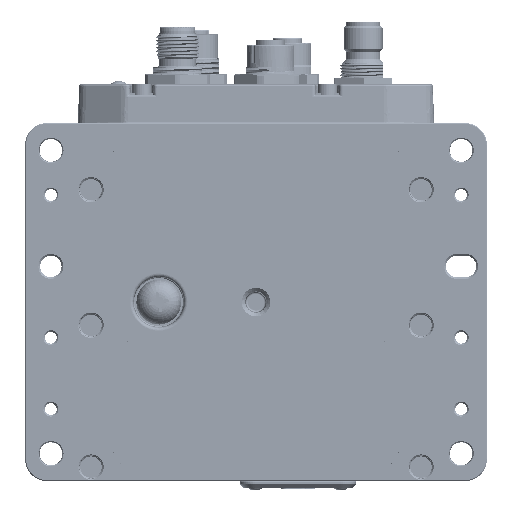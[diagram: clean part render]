
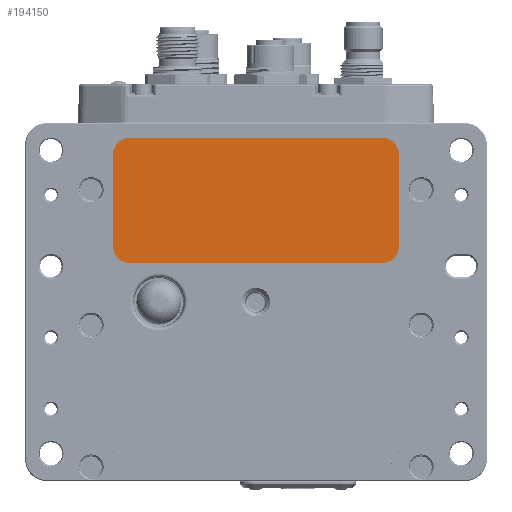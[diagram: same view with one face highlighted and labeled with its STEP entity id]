
A CAD part, front view. The second image highlights one B-rep face of the part: STEP entity #194150.
In plain terms, the highlighted planar face has unit normal (0, -1, 0).
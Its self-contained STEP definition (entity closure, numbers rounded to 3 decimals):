
#4591 = EDGE_CURVE ( 'NONE', #121905, #17283, #88026, .T. ) ;
#4722 = VERTEX_POINT ( 'NONE', #93000 ) ;
#5082 = CARTESIAN_POINT ( 'NONE',  ( -39.991, -12.053, 41.53 ) ) ;
#5385 = CIRCLE ( 'NONE', #127695, 4.462 ) ;
#7450 = FACE_OUTER_BOUND ( 'NONE', #107432, .T. ) ;
#12655 = CARTESIAN_POINT ( 'NONE',  ( 39.991, -12.053, 15.47 ) ) ;
#12853 = CARTESIAN_POINT ( 'NONE',  ( -35.53, -12.053, 15.47 ) ) ;
#16618 = ORIENTED_EDGE ( 'NONE', *, *, #197138, .T. ) ;
#17283 = VERTEX_POINT ( 'NONE', #94016 ) ;
#19097 = ORIENTED_EDGE ( 'NONE', *, *, #104748, .T. ) ;
#19632 = AXIS2_PLACEMENT_3D ( 'NONE', #152974, #92515, #94505 ) ;
#21293 = ORIENTED_EDGE ( 'NONE', *, *, #152134, .T. ) ;
#21953 = AXIS2_PLACEMENT_3D ( 'NONE', #130414, #191894, #139003 ) ;
#29757 = LINE ( 'NONE', #93293, #63622 ) ;
#31908 = AXIS2_PLACEMENT_3D ( 'NONE', #73482, #133989, #44217 ) ;
#38392 = CIRCLE ( 'NONE', #31908, 4.462 ) ;
#38960 = DIRECTION ( 'NONE',  ( 0., -1., 0. ) ) ;
#42102 = DIRECTION ( 'NONE',  ( 0., 0., -1. ) ) ;
#44217 = DIRECTION ( 'NONE',  ( 0., 0., -1. ) ) ;
#52104 = DIRECTION ( 'NONE',  ( 0., 0., -1. ) ) ;
#60696 = VERTEX_POINT ( 'NONE', #5082 ) ;
#61890 = DIRECTION ( 'NONE',  ( -1., 0., 0. ) ) ;
#63622 = VECTOR ( 'NONE', #139635, 1000. ) ;
#64050 = ORIENTED_EDGE ( 'NONE', *, *, #145686, .T. ) ;
#68918 = PLANE ( 'NONE',  #21953 ) ;
#73482 = CARTESIAN_POINT ( 'NONE',  ( -35.53, -12.053, 41.53 ) ) ;
#76445 = EDGE_CURVE ( 'NONE', #4722, #121905, #167136, .T. ) ;
#76724 = CARTESIAN_POINT ( 'NONE',  ( 39.991, -12.053, 15.47 ) ) ;
#88026 = LINE ( 'NONE', #196837, #174044 ) ;
#90159 = CARTESIAN_POINT ( 'NONE',  ( 35.53, -12.053, 45.991 ) ) ;
#90491 = VECTOR ( 'NONE', #167876, 1000. ) ;
#92167 = LINE ( 'NONE', #90159, #98063 ) ;
#92515 = DIRECTION ( 'NONE',  ( 0., -1., 0. ) ) ;
#93000 = CARTESIAN_POINT ( 'NONE',  ( -39.991, -12.053, 15.47 ) ) ;
#93293 = CARTESIAN_POINT ( 'NONE',  ( -39.991, -12.053, 15.47 ) ) ;
#94016 = CARTESIAN_POINT ( 'NONE',  ( 35.53, -12.053, 11.009 ) ) ;
#94505 = DIRECTION ( 'NONE',  ( 0., 0., -1. ) ) ;
#96950 = CIRCLE ( 'NONE', #19632, 4.462 ) ;
#98063 = VECTOR ( 'NONE', #61890, 1000. ) ;
#104748 = EDGE_CURVE ( 'NONE', #17283, #127442, #5385, .T. ) ;
#107432 = EDGE_LOOP ( 'NONE', ( #19097, #147254, #16618, #64050, #21293, #150689, #146173, #141462 ) ) ;
#112146 = CARTESIAN_POINT ( 'NONE',  ( -35.53, -12.053, 11.009 ) ) ;
#118752 = DIRECTION ( 'NONE',  ( 0., -1., 0. ) ) ;
#121905 = VERTEX_POINT ( 'NONE', #112146 ) ;
#122507 = LINE ( 'NONE', #12655, #90491 ) ;
#127442 = VERTEX_POINT ( 'NONE', #76724 ) ;
#127695 = AXIS2_PLACEMENT_3D ( 'NONE', #128728, #38960, #52104 ) ;
#128728 = CARTESIAN_POINT ( 'NONE',  ( 35.53, -12.053, 15.47 ) ) ;
#130414 = CARTESIAN_POINT ( 'NONE',  ( 35.53, -12.053, 15.47 ) ) ;
#133989 = DIRECTION ( 'NONE',  ( 0., -1., 0. ) ) ;
#138188 = AXIS2_PLACEMENT_3D ( 'NONE', #12853, #118752, #42102 ) ;
#139003 = DIRECTION ( 'NONE',  ( 0., 0., -1. ) ) ;
#139635 = DIRECTION ( 'NONE',  ( 0., 0., -1. ) ) ;
#140822 = VERTEX_POINT ( 'NONE', #192336 ) ;
#140935 = VERTEX_POINT ( 'NONE', #183552 ) ;
#141462 = ORIENTED_EDGE ( 'NONE', *, *, #4591, .T. ) ;
#145686 = EDGE_CURVE ( 'NONE', #140935, #188596, #92167, .T. ) ;
#146173 = ORIENTED_EDGE ( 'NONE', *, *, #76445, .T. ) ;
#147254 = ORIENTED_EDGE ( 'NONE', *, *, #156250, .T. ) ;
#149617 = EDGE_CURVE ( 'NONE', #60696, #4722, #29757, .T. ) ;
#150689 = ORIENTED_EDGE ( 'NONE', *, *, #149617, .T. ) ;
#152134 = EDGE_CURVE ( 'NONE', #188596, #60696, #38392, .T. ) ;
#152974 = CARTESIAN_POINT ( 'NONE',  ( 35.53, -12.053, 41.53 ) ) ;
#156250 = EDGE_CURVE ( 'NONE', #127442, #140822, #122507, .T. ) ;
#167136 = CIRCLE ( 'NONE', #138188, 4.462 ) ;
#167876 = DIRECTION ( 'NONE',  ( 0., 0., 1. ) ) ;
#174044 = VECTOR ( 'NONE', #180723, 1000. ) ;
#180723 = DIRECTION ( 'NONE',  ( 1., 0., 0. ) ) ;
#183375 = CARTESIAN_POINT ( 'NONE',  ( -35.53, -12.053, 45.991 ) ) ;
#183552 = CARTESIAN_POINT ( 'NONE',  ( 35.53, -12.053, 45.991 ) ) ;
#188596 = VERTEX_POINT ( 'NONE', #183375 ) ;
#191894 = DIRECTION ( 'NONE',  ( 0., -1., 0. ) ) ;
#192336 = CARTESIAN_POINT ( 'NONE',  ( 39.991, -12.053, 41.53 ) ) ;
#194150 = ADVANCED_FACE ( 'NONE', ( #7450 ), #68918, .T. ) ;
#196837 = CARTESIAN_POINT ( 'NONE',  ( 35.53, -12.053, 11.009 ) ) ;
#197138 = EDGE_CURVE ( 'NONE', #140822, #140935, #96950, .T. ) ;
